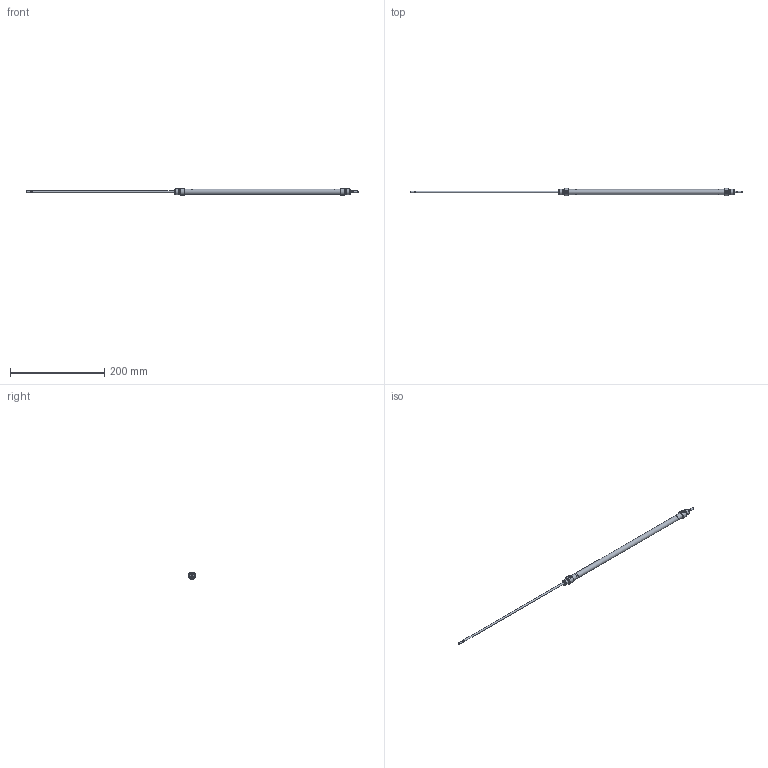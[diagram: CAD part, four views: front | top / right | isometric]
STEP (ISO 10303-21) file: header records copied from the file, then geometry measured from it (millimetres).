
FILE_DESCRIPTION( ( 'STEP AP203' ), '1' );
FILE_NAME( '//expscmdclustefs.cadenas.external/client_exchange/iodir/jobs/output/wkb68274746_no0/STEP/M101-010-0300-M__0__2_03.stp', ' ', ( ' ' ), ( ' ' ), 'PSStep 15.0.47', 'PARTsolutions', ' ' );
FILE_SCHEMA( ( 'CONFIG_CONTROL_DESIGN' ) );
Length unit declared in the file: millimetre
Products named in the file (3): M101-010-0300-M [0]; HI_M101-010-0300-M-[0]-z; HI_M101-010-0300-M-[0]-k
Assembly tree (2 placements, depth 2):
  M101-010-0300-M [0]
    HI_M101-010-0300-M-[0]-z
    HI_M101-010-0300-M-[0]-k
Bounding box: 706 x 15.77 x 14.87 mm (x, y, z)
Volume: 23674 mm3; surface area: 33893.3 mm2
Topology: 2 solids, 2 shells, 71 faces, 145 edges, 88 vertices
Faces by surface type: plane 32, cylinder 23, cone 14, torus 2
Full cylindrical faces by diameter (mm): 3.141 x2, 4 x6, 4.134 x2, 10 x2, 10.466 x4, 11.3 x1, 12 x4
Entity records: 1838 total; most frequent: CARTESIAN_POINT 358, DIRECTION 312, ORIENTED_EDGE 212, AXIS2_PLACEMENT_3D 140, EDGE_LOOP 120, EDGE_CURVE 106, FACE_OUTER_BOUND 94, VERTEX_POINT 82
